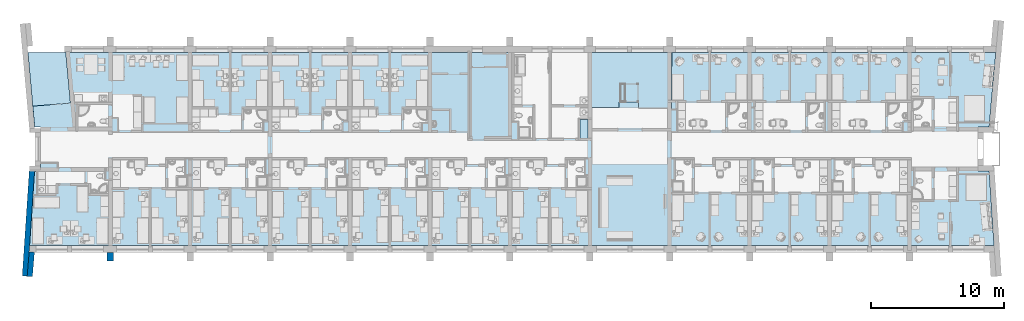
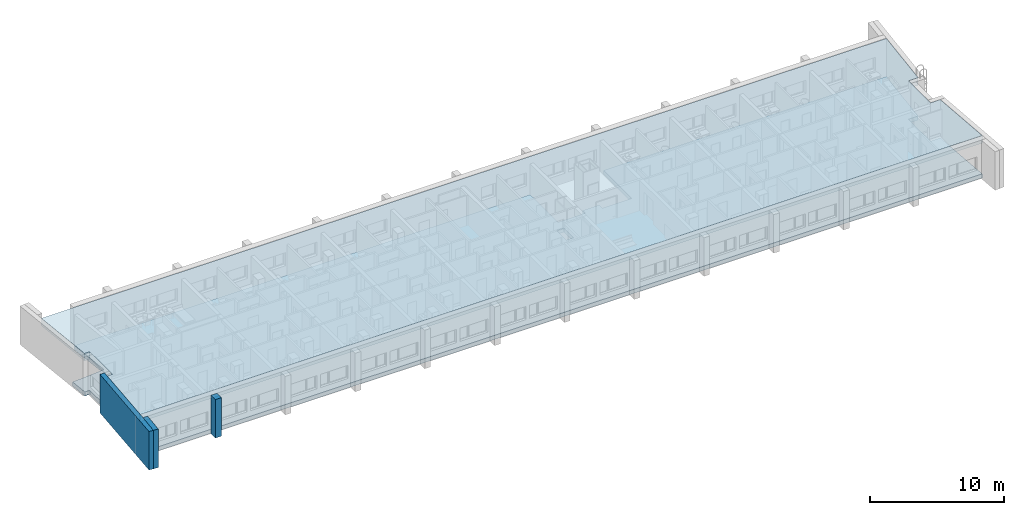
# One storey, part 1 of 152: 3 walls, 2 slabs, 1 opening.
"""IFC2X3 building model written with IfcOpenShell, lengths in millimetres."""

from ifc_helpers import new_model, entity, si_unit, converted_unit, money_unit, direction, frame, origin_with_axes, place, context, subcontext, project, spatial, polyline, outline, extrude, material, layer, layer_set, layer_usage, type_object, element, save


model = new_model("IFC2X3")

# Units and contexts
model_context = context("Model", 3, precision=1e-05, world=origin_with_axes(), true_north=direction((0.0, 1.0)))
body_context = subcontext(model_context, "Body", "Model", "MODEL_VIEW")
ifc_project = project(units=[si_unit("LENGTHUNIT", "METRE", prefix="MILLI"), si_unit("AREAUNIT", "SQUARE_METRE"), si_unit("VOLUMEUNIT", "CUBIC_METRE"), converted_unit("PLANEANGLEUNIT", "DEGREE", entity("IfcPlaneAngleMeasure", 0.0174532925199), si_unit("PLANEANGLEUNIT", "RADIAN"), dimensions=[0, 0, 0, 0, 0, 0, 0]), si_unit("SOLIDANGLEUNIT", "STERADIAN"), money_unit("USD"), converted_unit("TIMEUNIT", "Year", entity("IfcTimeMeasure", 31556926.0), si_unit("TIMEUNIT", "SECOND"), dimensions=[0, 0, 0, 0, 0, 0, 0]), si_unit("MASSUNIT", "GRAM"), si_unit("THERMODYNAMICTEMPERATUREUNIT", "DEGREE_CELSIUS"), si_unit("LUMINOUSINTENSITYUNIT", "LUMEN")], contexts=[model_context])

# Site, building, storey
site_placement = place(None, origin_with_axes())
site = spatial("IfcSite", under=ifc_project, at=site_placement, Name="Site", CompositionType="ELEMENT")
building_placement = place(site_placement, origin_with_axes())
building = spatial("IfcBuilding", under=site, at=building_placement, Name="Building", CompositionType="ELEMENT")
storey_placement = place(building_placement, frame((0.0, 0.0, 9500.0), z_axis=(0.0, 0.0, 1.0), x_axis=(1.0, 0.0, 0.0)))
storey = spatial("IfcBuildingStorey", under=building, at=storey_placement, Name="5KORRUS", CompositionType="ELEMENT", Elevation=9500.0)

# Slab, opening
ifc_material_1 = material(Name="Plaat")
ifc_layer_1 = layer(ifc_material_1, 10.0, ventilated="UNKNOWN")
ifc_material_2 = material(Name="Betoonvalu")
ifc_layer_2 = layer(ifc_material_2, 15.0, ventilated="UNKNOWN")
ifc_material_3 = material(Name="Vahtpolüstüreen")
ifc_layer_3 = layer(ifc_material_3, 30.0, ventilated="UNKNOWN")
ifc_material_4 = material(Name="Reinforced Concrete - Structural (1)")
ifc_layer_4 = layer(ifc_material_4, 265.0, ventilated="UNKNOWN")
ifc_material_5 = material(Name="Kile")
ifc_layer_5 = layer(ifc_material_5, 45.0, ventilated="UNKNOWN")
ifc_layer_set_1 = layer_set([ifc_layer_1, ifc_layer_2, ifc_layer_3, ifc_layer_4, ifc_layer_5], Name="Olemasolev põrand, vahelagi, uus viimistlus")
ifc_layer_usage_1 = layer_usage(ifc_layer_set_1, "AXIS3", "NEGATIVE", 365.0)
slab_type_1 = type_object("IfcSlabType", Name="Olemasolev põrand, vahelagi, uus viimistlus 365", PredefinedType="NOTDEFINED")
slab_1_placement = place(storey_placement, frame((-54198.1100595, -19639.2398995, 0.0), z_axis=(0.0, 0.0, 1.0), x_axis=(1.0, 0.0, 0.0)))
slab_1 = element("IfcSlab", 1, at=slab_1_placement, inside=storey, type_object=slab_type_1, material=ifc_layer_usage_1, Name="P3", ObjectType="P3", PredefinedType="FLOOR", context=body_context, shape_type="SweptSolid", body=[
    extrude(outline(polyline([(0.0, 0.0), (72415.6267124, 0.0), (72043.2266842, 5600.0), (71213.2900293, 5600.0), (71213.2900293, 8899.63579061), (72039.7151707, 8899.63579061), (72543.4907953, 14499.6357906), (48213.926133, 14499.6357906), (48207.8133562, 10298.5963725), (45706.1788663, 10298.5963725), (45706.1788663, 10768.5963725), (44257.8133562, 10768.5963725), (44257.8133562, 10358.5963725), (41907.8133562, 10358.5963725), (41907.8133562, 14499.6357906), (2717.49602875, 14499.6357906), (3064.65052969, 10702.5734401), (242.668005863, 10474.664244), (375.911541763, 8899.63579061), (805.883228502, 8899.63579061), (805.883228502, 5551.90233206), (369.201533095, 5551.90233206), (0.0, 0.0)])), frame((0.0, 0.0, -365.0), z_axis=(0.0, 0.0, 1.0), x_axis=(1.0, 0.0, 0.0)), (0.0, 0.0, 1.0), 365.0),
])
opening_placement = place(slab_1_placement, origin_with_axes())
element("IfcOpeningElement", 2, at=opening_placement, cuts=slab_1, Name="Slab Opening", context=body_context, shape_type="SweptSolid", body=[
    extrude(outline(polyline([(41307.8133562, 9480.0), (41307.8133562, 8050.0), (41907.8133562, 8050.0), (41907.8133562, 9480.0), (41307.8133562, 9480.0)])), frame((0.0, 0.0, -365.0), z_axis=(0.0, 0.0, 1.0), x_axis=(1.0, 0.0, 0.0)), (0.0, 0.0, 1.0), 365.0),
])

# Slab
ifc_material_6 = material(Name="Sillutis, Pinnas")
ifc_layer_6 = layer(ifc_material_6, 30.0, ventilated="UNKNOWN")
ifc_material_7 = material(Name="Membrane - Rainproof (1)")
ifc_layer_7 = layer(ifc_material_7, 5.0, ventilated="UNKNOWN")
ifc_layer_8 = layer(ifc_material_3, 300.0, ventilated="UNKNOWN")
ifc_material_8 = material(Name="Membrane - Vapor Barrier")
ifc_layer_9 = layer(ifc_material_8, 5.0, ventilated="UNKNOWN")
ifc_layer_10 = layer(ifc_material_4, 320.0, ventilated="UNKNOWN")
ifc_material_9 = material(Name="Plaster - Gypsum (1)")
ifc_layer_11 = layer(ifc_material_9, 20.0, ventilated="UNKNOWN")
ifc_layer_set_2 = layer_set([ifc_layer_6, ifc_layer_7, ifc_layer_8, ifc_layer_9, ifc_layer_10, ifc_layer_11], Name="Flat Roof (1)")
ifc_layer_usage_2 = layer_usage(ifc_layer_set_2, "AXIS3", "NEGATIVE", 680.0)
slab_type_2 = type_object("IfcSlabType", Name="Flat Roof 680", PredefinedType="NOTDEFINED")
slab_2_placement = place(storey_placement, frame((-15188.8195699, -1618.82830696, 2800.0), z_axis=(0.0, 0.0, 1.0), x_axis=(0.089598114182, -0.995978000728, 0.0)))
element("IfcSlab", 3, at=slab_2_placement, inside=storey, type_object=slab_type_2, material=ifc_layer_usage_2, Name="K1", ObjectType="K1", PredefinedType="ROOF", context=body_context, shape_type="SweptSolid", body=[
    extrude(outline(polyline([(0.0, -39295.1998375), (5580.4933024, -39295.1998375), (5620.46072722, -38850.9195506), (8997.83957178, -39139.875039), (8956.28182291, -39601.8334632), (14452.7746467, -40466.9900471), (20941.0782374, 31657.3810674), (15303.9769206, 31790.5904547), (15255.874334, 30961.629621), (11969.5096761, 31257.2707653), (12043.5558103, 32080.3720254), (6511.21635213, 33083.8709042), (0.0, -39295.1998375)])), origin_with_axes(), (0.0, 0.0, 1.0), 680.0),
])

# Walls
ifc_material_10 = material(Name="Olemasolevad seinad tellis, uus viimistlus")
ifc_layer_12 = layer(ifc_material_10, 400.0, ventilated="UNKNOWN")
ifc_layer_set_3 = layer_set([ifc_layer_12], Name="Olemasolevad seinad tellis, uus viimistlus 400")
ifc_layer_usage_3 = layer_usage(ifc_layer_set_3, "AXIS2", "POSITIVE", -400.0)
wall_type_1 = type_object("IfcWallType", Name="Olemasolevad seinad tellis, uus viimistlus 400", PredefinedType="NOTDEFINED")
wall_1_placement = place(storey_placement, frame((-53833.4687818, -20139.2398994, 0.0), z_axis=(0.0, 0.0, 1.0), x_axis=(-0.0832329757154, -0.996530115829, 0.0)))
element("IfcWallStandardCase", 4, at=wall_1_placement, inside=storey, type_object=wall_type_1, material=ifc_layer_usage_3, Name="VS1", ObjectType="VS1", context=body_context, shape_type="SweptSolid", body=[
    extrude(outline(polyline([(0.0, -400.0), (1841.51942027, -400.0), (1841.51942027, 0.0), (0.0, 0.0), (0.0, -400.0)])), origin_with_axes(), (0.0, 0.0, 1.0), 3500.0),
])
ifc_layer_usage_4 = layer_usage(ifc_layer_set_3, "AXIS2", "POSITIVE", 0.0)
wall_2_placement = place(storey_placement, frame((-54200.4261075, -13645.7452196, 0.0), z_axis=(0.0, 0.0, 1.0), x_axis=(-0.0663534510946, -0.997796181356, 0.0)))
element("IfcWallStandardCase", 5, at=wall_2_placement, inside=storey, type_object=wall_type_1, material=ifc_layer_usage_4, Name="VS1", ObjectType="VS1", context=body_context, shape_type="SweptSolid", body=[
    extrude(outline(polyline([(0.0, 0.0), (8288.6967778, 0.0), (8288.6967778, 400.0), (0.0, 400.0), (0.0, 0.0)])), origin_with_axes(), (0.0, 0.0, 1.0), 3500.0),
])
ifc_layer_13 = layer(ifc_material_10, 500.0, ventilated="UNKNOWN")
ifc_layer_set_4 = layer_set([ifc_layer_13], Name="Olemasolevad seinad tellis, uus viimistlus 500")
ifc_layer_usage_5 = layer_usage(ifc_layer_set_4, "AXIS2", "POSITIVE", -100.0)
wall_type_2 = type_object("IfcWallType", Name="Olemasolevad seinad tellis, uus viimistlus 500", PredefinedType="NOTDEFINED")
wall_3_placement = place(storey_placement, frame((-47990.2967033, -20796.6419407, 0.0), z_axis=(0.0, 0.0, 1.0), x_axis=(0.0, 1.0, 0.0)))
element("IfcWallStandardCase", 6, at=wall_3_placement, inside=storey, type_object=wall_type_2, material=ifc_layer_usage_5, Name="VS1", ObjectType="VS1", context=body_context, shape_type="SweptSolid", body=[
    extrude(outline(polyline([(0.0, -100.0), (657.402041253, -100.0), (657.402041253, 400.0), (0.0, 400.0), (0.0, -100.0)])), origin_with_axes(), (0.0, 0.0, 1.0), 3500.0),
])

save(model, "model.ifc")
